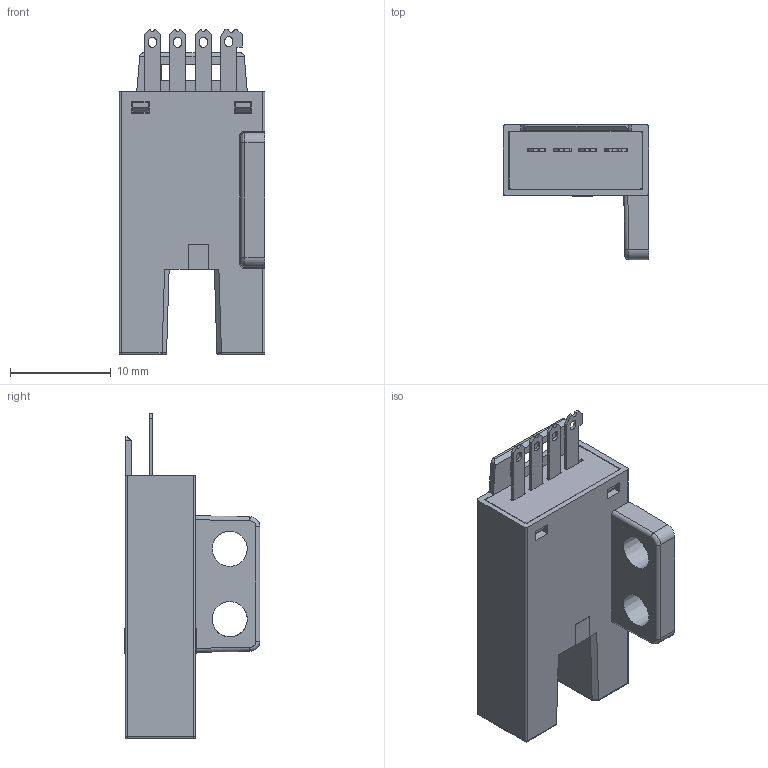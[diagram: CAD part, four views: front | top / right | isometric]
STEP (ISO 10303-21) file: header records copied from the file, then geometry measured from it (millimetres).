
FILE_DESCRIPTION(/* description */ (''),/* implementation_level */ '2;1');
FILE_NAME(/* name */ 'F:\HUAYIFENG\02)HUAYIFENG_3D_MODE\HUAYIFENG_3D_MODE_\X2\69FD578B51497535\X0\\LU68系列\LU686\LU686.stp',/* time_stamp */ '2019-04-03T22:12:40+08:00',/* author */ ('fengjiarun'),/* organization */ (''),/* preprocessor_version */ 'ST-DEVELOPER v16.5',/* originating_system */ 'Autodesk Inventor 2017',/* authorisation */ '');
FILE_SCHEMA (('AUTOMOTIVE_DESIGN { 1 0 10303 214 3 1 1 }'));
Length unit declared in the file: millimetre
Products named in the file (1): 零件338
Bounding box: 14.5 x 13.5 x 32.39 mm (x, y, z)
Volume: 1190.8 mm3; surface area: 3326.9 mm2
Topology: 2 solids, 2 shells, 479 faces, 1381 edges, 908 vertices
Faces by surface type: plane 402, cylinder 66, sphere 6, cone 3, bspline 2
Full cylindrical faces by diameter (mm): 1.5 x2
Entity records: 15626 total; most frequent: CARTESIAN_POINT 2865, ORIENTED_EDGE 2742, DIRECTION 2473, EDGE_CURVE 1371, LINE 1209, VECTOR 1209, VERTEX_POINT 906, AXIS2_PLACEMENT_3D 632
